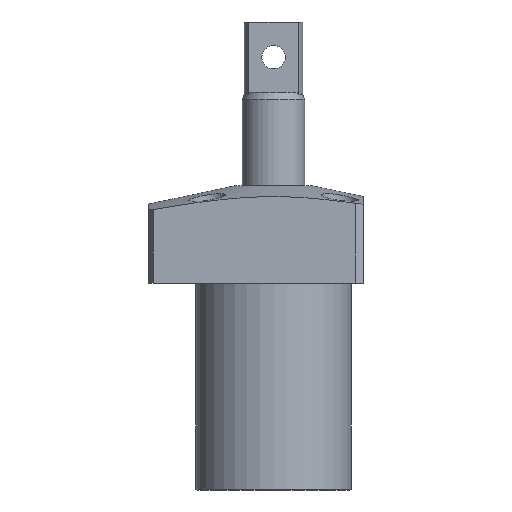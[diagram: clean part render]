
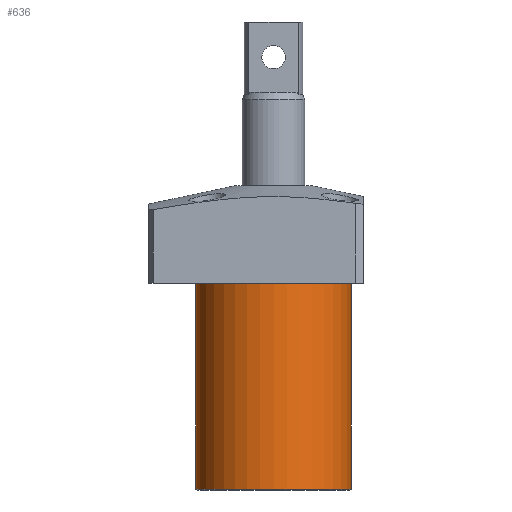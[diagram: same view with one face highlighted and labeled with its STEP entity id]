
A CAD part, front view. The second image highlights one B-rep face of the part: STEP entity #636.
In plain terms, the highlighted cylindrical face has radius 19.95 mm (diameter 39.9 mm), a partial arc.
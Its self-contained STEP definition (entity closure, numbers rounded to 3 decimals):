
#106 = VERTEX_POINT ( 'NONE', #2122 ) ;
#116 = LINE ( 'NONE', #1670, #2348 ) ;
#507 = CARTESIAN_POINT ( 'NONE',  ( 0., 0., 53. ) ) ;
#540 = FACE_OUTER_BOUND ( 'NONE', #1609, .T. ) ;
#582 = VERTEX_POINT ( 'NONE', #1673 ) ;
#607 = VERTEX_POINT ( 'NONE', #1091 ) ;
#636 = ADVANCED_FACE ( 'NONE', ( #540 ), #891, .T. ) ;
#716 = AXIS2_PLACEMENT_3D ( 'NONE', #507, #1290, #2334 ) ;
#720 = CARTESIAN_POINT ( 'NONE',  ( 0., 0., 53. ) ) ;
#727 = DIRECTION ( 'NONE',  ( 1., 0., 0. ) ) ;
#738 = EDGE_CURVE ( 'NONE', #607, #582, #1288, .T. ) ;
#782 = VERTEX_POINT ( 'NONE', #1256 ) ;
#783 = EDGE_CURVE ( 'NONE', #607, #106, #116, .T. ) ;
#843 = AXIS2_PLACEMENT_3D ( 'NONE', #2488, #2109, #727 ) ;
#875 = DIRECTION ( 'NONE',  ( 1., 0., 0. ) ) ;
#891 = CYLINDRICAL_SURFACE ( 'NONE', #716, 19.95 ) ;
#1015 = DIRECTION ( 'NONE',  ( 0., 0., -1. ) ) ;
#1026 = LINE ( 'NONE', #1769, #2140 ) ;
#1091 = CARTESIAN_POINT ( 'NONE',  ( -19.95, 0., 53. ) ) ;
#1256 = CARTESIAN_POINT ( 'NONE',  ( 19.95, 0., 0.182 ) ) ;
#1288 = CIRCLE ( 'NONE', #1605, 19.95 ) ;
#1290 = DIRECTION ( 'NONE',  ( 0., 0., -1. ) ) ;
#1297 = CIRCLE ( 'NONE', #843, 19.95 ) ;
#1298 = DIRECTION ( 'NONE',  ( 0., 0., -1. ) ) ;
#1605 = AXIS2_PLACEMENT_3D ( 'NONE', #720, #1856, #875 ) ;
#1609 = EDGE_LOOP ( 'NONE', ( #2213, #2317, #2380, #1841 ) ) ;
#1642 = EDGE_CURVE ( 'NONE', #106, #782, #1297, .T. ) ;
#1670 = CARTESIAN_POINT ( 'NONE',  ( -19.95, 0., 53. ) ) ;
#1673 = CARTESIAN_POINT ( 'NONE',  ( 19.95, 0., 53. ) ) ;
#1769 = CARTESIAN_POINT ( 'NONE',  ( 19.95, 0., 53. ) ) ;
#1841 = ORIENTED_EDGE ( 'NONE', *, *, #1642, .T. ) ;
#1856 = DIRECTION ( 'NONE',  ( 0., 0., 1. ) ) ;
#2109 = DIRECTION ( 'NONE',  ( 0., 0., 1. ) ) ;
#2122 = CARTESIAN_POINT ( 'NONE',  ( -19.95, 0., 0.182 ) ) ;
#2140 = VECTOR ( 'NONE', #1015, 1000. ) ;
#2213 = ORIENTED_EDGE ( 'NONE', *, *, #2471, .F. ) ;
#2317 = ORIENTED_EDGE ( 'NONE', *, *, #738, .F. ) ;
#2334 = DIRECTION ( 'NONE',  ( -1., 0., 0. ) ) ;
#2348 = VECTOR ( 'NONE', #1298, 1000. ) ;
#2380 = ORIENTED_EDGE ( 'NONE', *, *, #783, .T. ) ;
#2471 = EDGE_CURVE ( 'NONE', #582, #782, #1026, .T. ) ;
#2488 = CARTESIAN_POINT ( 'NONE',  ( 0., 0., 0.182 ) ) ;
